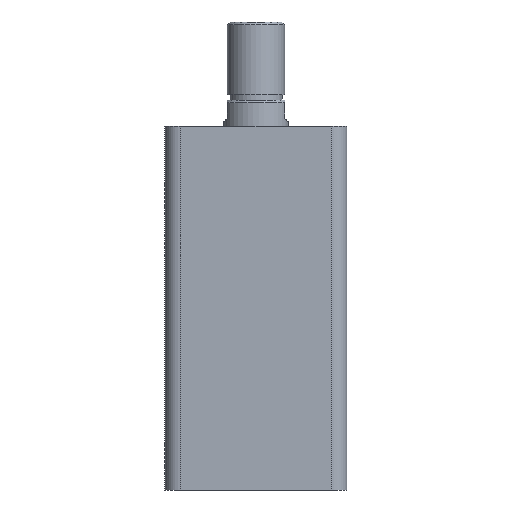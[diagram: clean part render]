
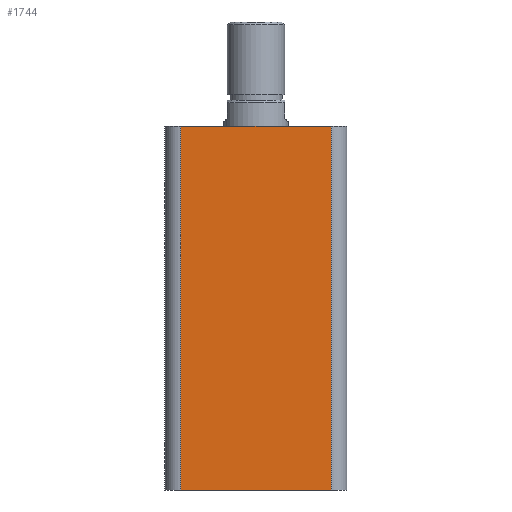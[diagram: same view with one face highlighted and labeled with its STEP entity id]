
A CAD part, front view. The second image highlights one B-rep face of the part: STEP entity #1744.
In plain terms, the highlighted planar face has unit normal (0, -1, 0).
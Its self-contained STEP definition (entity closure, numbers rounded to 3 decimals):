
#235 = VERTEX_POINT ( 'NONE', #1792 ) ;
#286 = VERTEX_POINT ( 'NONE', #2136 ) ;
#288 = VERTEX_POINT ( 'NONE', #2130 ) ;
#289 = VERTEX_POINT ( 'NONE', #2128 ) ;
#379 = EDGE_LOOP ( 'NONE', ( #557, #593, #536, #563 ) ) ;
#536 = ORIENTED_EDGE ( 'NONE', *, *, #1154, .T. ) ;
#557 = ORIENTED_EDGE ( 'NONE', *, *, #1217, .F. ) ;
#563 = ORIENTED_EDGE ( 'NONE', *, *, #1157, .T. ) ;
#593 = ORIENTED_EDGE ( 'NONE', *, *, #1151, .T. ) ;
#714 = AXIS2_PLACEMENT_3D ( 'NONE', #2408, #2403, #2402 ) ;
#904 = DIRECTION ( 'NONE',  ( 1., 0., 0. ) ) ;
#907 = CARTESIAN_POINT ( 'NONE',  ( -35., -35., 140. ) ) ;
#1151 = EDGE_CURVE ( 'NONE', #235, #288, #1614, .T. ) ;
#1154 = EDGE_CURVE ( 'NONE', #288, #289, #1610, .T. ) ;
#1157 = EDGE_CURVE ( 'NONE', #289, #286, #1601, .T. ) ;
#1217 = EDGE_CURVE ( 'NONE', #235, #286, #1416, .T. ) ;
#1413 = VECTOR ( 'NONE', #904, 1000. ) ;
#1416 = LINE ( 'NONE', #907, #1413 ) ;
#1595 = VECTOR ( 'NONE', #2010, 1000. ) ;
#1601 = LINE ( 'NONE', #2005, #1595 ) ;
#1603 = VECTOR ( 'NONE', #2020, 1000. ) ;
#1610 = LINE ( 'NONE', #2016, #1603 ) ;
#1611 = VECTOR ( 'NONE', #2064, 1000. ) ;
#1614 = LINE ( 'NONE', #2024, #1611 ) ;
#1744 = ADVANCED_FACE ( 'NONE', ( #2214 ), #2407, .F. ) ;
#1792 = CARTESIAN_POINT ( 'NONE',  ( -29., -35., 140. ) ) ;
#2005 = CARTESIAN_POINT ( 'NONE',  ( 29., -35., 140. ) ) ;
#2010 = DIRECTION ( 'NONE',  ( 0., 0., 1. ) ) ;
#2016 = CARTESIAN_POINT ( 'NONE',  ( -35., -35., 0. ) ) ;
#2020 = DIRECTION ( 'NONE',  ( 1., 0., 0. ) ) ;
#2024 = CARTESIAN_POINT ( 'NONE',  ( -29., -35., 140. ) ) ;
#2064 = DIRECTION ( 'NONE',  ( 0., 0., -1. ) ) ;
#2128 = CARTESIAN_POINT ( 'NONE',  ( 29., -35., 0. ) ) ;
#2130 = CARTESIAN_POINT ( 'NONE',  ( -29., -35., 0. ) ) ;
#2136 = CARTESIAN_POINT ( 'NONE',  ( 29., -35., 140. ) ) ;
#2214 = FACE_OUTER_BOUND ( 'NONE', #379, .T. ) ;
#2402 = DIRECTION ( 'NONE',  ( 0., 0., 1. ) ) ;
#2403 = DIRECTION ( 'NONE',  ( 0., 1., 0. ) ) ;
#2407 = PLANE ( 'NONE',  #714 ) ;
#2408 = CARTESIAN_POINT ( 'NONE',  ( -35., -35., 140. ) ) ;
